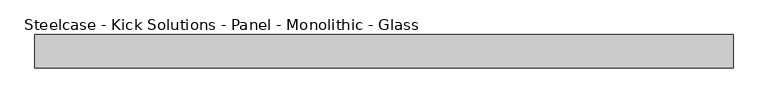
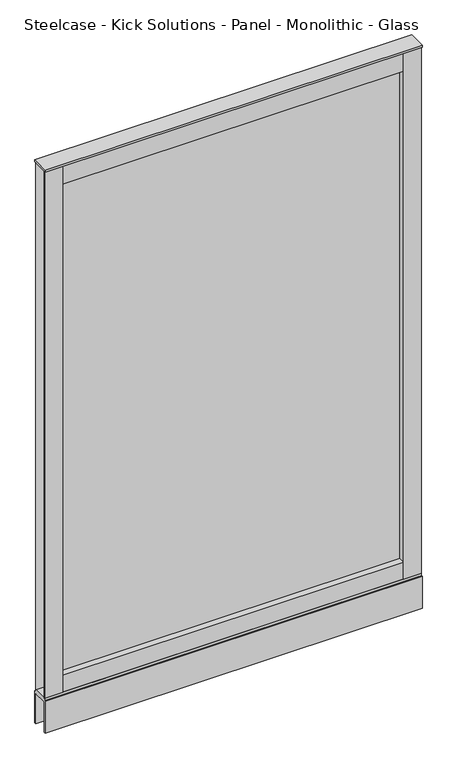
"""IFC4 building model written with IfcOpenShell, lengths in millimetres: furniture geometry, Steelcase - Kick Solutions - Panel - Monolithic - Glass : 66H x 42W."""

import ifcopenshell
import ifcopenshell.guid

model = None  # the IFC model being written
_history = None  # IfcOwnerHistory: only IFC2X3 demands one
_inside = {}  # id of a spatial element -> (the spatial element, [elements in it])
_under = {}  # id of a project, library or spatial element -> (it, [spatial elements below it])
_declared = {}  # id of a project -> (the project, [libraries it declares])
_typed = {}  # id of a type object -> (the type object, [elements of that type])
_made_of = {}  # id of a material, layer set ... -> (it, [elements and type objects made of it])


def new_model(schema):
    """Start an empty IFC model of exactly this schema.

    Asked for "IFC4X3", IfcOpenShell would pick the latest addendum, in which some entities
    have other attributes; the version numbers below select the first issue.
    IFC2X3 requires an IfcOwnerHistory on every rooted entity: one is made here for all.
    """
    global model, _history
    if schema == "IFC4X3":
        model = ifcopenshell.file(schema_version=(4, 3, 0, 0))
    else:
        model = ifcopenshell.file(schema=schema)
    _inside.clear()
    _under.clear()
    _declared.clear()
    _typed.clear()
    _made_of.clear()
    _history = None
    if model.schema == "IFC2X3":
        org = make("IfcOrganization", Name="unknown")
        user = make(
            "IfcPersonAndOrganization",
            ThePerson=make("IfcPerson", FamilyName="unknown"),
            TheOrganization=org,
        )
        app = make(
            "IfcApplication",
            ApplicationDeveloper=org,
            Version="unknown",
            ApplicationFullName="unknown",
            ApplicationIdentifier="unknown",
        )
        _history = make(
            "IfcOwnerHistory",
            OwningUser=user,
            OwningApplication=app,
            ChangeAction="ADDED",
            CreationDate=0,
        )
    return model


def make(cls, **values):
    """One entity of the class cls with the attributes given. An attribute that is None is left unset."""
    return model.create_entity(
        cls, **{name: value for name, value in values.items() if value is not None}
    )


def rooted(cls, **values):
    """An entity with a GlobalId (a new one), such as an element, a storey or a relation."""
    return make(cls, GlobalId=ifcopenshell.guid.new(), OwnerHistory=_history, **values)


def si_unit(unit_type, name, prefix=None):
    """IfcSIUnit, for example si_unit("LENGTHUNIT", "METRE", prefix="MILLI")."""
    return make("IfcSIUnit", UnitType=unit_type, Prefix=prefix, Name=name)


def assignment(units):
    """IfcUnitAssignment: the units of a project."""
    return None if units is None else make("IfcUnitAssignment", Units=units)


def point(xyz):
    """IfcCartesianPoint."""
    return None if xyz is None else make("IfcCartesianPoint", Coordinates=xyz)


def direction(xyz):
    """IfcDirection."""
    return None if xyz is None else make("IfcDirection", DirectionRatios=xyz)


def frame(location, z_axis=None, x_axis=None):
    """IfcAxis2Placement3D, a coordinate frame: its origin and axes. An axis left out is left unset."""
    return make(
        "IfcAxis2Placement3D",
        Location=point(location),
        Axis=direction(z_axis),
        RefDirection=direction(x_axis),
    )


def origin():
    """The frame at (0, 0, 0) with its axes left unset."""
    return frame((0.0, 0.0, 0.0))


def place(relative_to, where):
    """IfcLocalPlacement: puts the frame where relative to a parent placement (None: the world)."""
    return make(
        "IfcLocalPlacement", PlacementRelTo=relative_to, RelativePlacement=where
    )


def context(
    kind, dimensions, precision=None, world=None, true_north=None, identifier=None
):
    """IfcGeometricRepresentationContext, for example the 3D "Model" context."""
    return make(
        "IfcGeometricRepresentationContext",
        ContextIdentifier=identifier,
        ContextType=kind,
        CoordinateSpaceDimension=dimensions,
        Precision=precision,
        WorldCoordinateSystem=world,
        TrueNorth=true_north,
    )


def project(units=None, contexts=None):
    """IfcProject with its units and contexts."""
    return rooted(
        "IfcProject",
        Name="project",
        RepresentationContexts=contexts,
        UnitsInContext=assignment(units),
    )


def spatial(cls, under=None, at=None, **own):
    """A site, building, storey or space (cls), placed at a placement, below another one or the project."""
    s = rooted(cls, ObjectPlacement=at, **own)
    if under is not None:
        _under.setdefault(under.id(), (under, []))[1].append(s)
    return s


def polyline(points):
    """IfcPolyline through the points."""
    return make("IfcPolyline", Points=[point(p) for p in points])


def outline(outer, holes=None, kind="AREA"):
    """IfcArbitraryClosedProfileDef: a profile drawn as a closed curve; with holes, ...WithVoids."""
    if holes is None:
        return make("IfcArbitraryClosedProfileDef", ProfileType=kind, OuterCurve=outer)
    return make(
        "IfcArbitraryProfileDefWithVoids",
        ProfileType=kind,
        OuterCurve=outer,
        InnerCurves=holes,
    )


def extrude(swept, where, along, depth):
    """IfcExtrudedAreaSolid: the profile swept, set in the frame where, extruded along a direction by depth."""
    return make(
        "IfcExtrudedAreaSolid",
        SweptArea=swept,
        Position=where,
        ExtrudedDirection=direction(along),
        Depth=depth,
    )


def shape(context_of_items, identifier, shape_type, items):
    """IfcShapeRepresentation: the items that make up one representation, for example the "Body"."""
    return make(
        "IfcShapeRepresentation",
        ContextOfItems=context_of_items,
        RepresentationIdentifier=identifier,
        RepresentationType=shape_type,
        Items=items,
    )


def source(mapping_origin, context_of_items, identifier, shape_type, items):
    """IfcRepresentationMap: a shape defined once, which mapped items show again and again."""
    return make(
        "IfcRepresentationMap",
        MappingOrigin=mapping_origin,
        MappedRepresentation=shape(context_of_items, identifier, shape_type, items),
    )


def transform(
    local_origin,
    x_axis=None,
    y_axis=None,
    z_axis=None,
    scale=None,
    scale2=None,
    scale3=None,
    uniform=True,
):
    """IfcCartesianTransformationOperator3D, or its non-uniform kind. x_axis, y_axis, z_axis: its Axis1, 2, 3."""
    if uniform:
        return make(
            "IfcCartesianTransformationOperator3D",
            Axis1=direction(x_axis),
            Axis2=direction(y_axis),
            LocalOrigin=point(local_origin),
            Scale=scale,
            Axis3=direction(z_axis),
        )
    return make(
        "IfcCartesianTransformationOperator3DnonUniform",
        Axis1=direction(x_axis),
        Axis2=direction(y_axis),
        LocalOrigin=point(local_origin),
        Scale=scale,
        Axis3=direction(z_axis),
        Scale2=scale2,
        Scale3=scale3,
    )


def mapped(mapping_source, mapping_target):
    """IfcMappedItem: shows the shape of a source again, moved by a transform."""
    return make(
        "IfcMappedItem", MappingSource=mapping_source, MappingTarget=mapping_target
    )


def made_of(thing, what):
    """Note that an element or type object is made of a material, layer set ...; save() writes the relation."""
    if what is not None:
        _made_of.setdefault(what.id(), (what, []))[1].append(thing)
    return thing


def element(
    cls,
    number,
    at=None,
    inside=None,
    cuts=None,
    type_object=None,
    material=None,
    context=None,
    identifier="Body",
    shape_type=None,
    held_by="IfcProductDefinitionShape",
    body=None,
    shapes=None,
    **own,
):
    """One element of the class cls, such as IfcWall. Its Tag is "e" and its number.

    at: its placement. inside: the storey or other place that contains it. cuts: it is an
    opening in that element (IfcRelVoidsElement). A single representation is given by context,
    identifier, shape_type and body (its items); several are given by shapes. held_by: the class
    of the entity that holds the representations. save() writes the other relations.
    """
    e = rooted(cls, Tag="e%d" % number, ObjectPlacement=at, **own)
    if body is not None:
        shapes = [shape(context, identifier, shape_type, body)]
    if shapes is not None:
        e.Representation = make(held_by, Representations=shapes)
    if inside is not None:
        _inside.setdefault(inside.id(), (inside, []))[1].append(e)
    if cuts is not None:
        rooted(
            "IfcRelVoidsElement", RelatingBuildingElement=cuts, RelatedOpeningElement=e
        )
    if type_object is not None:
        _typed.setdefault(type_object.id(), (type_object, []))[1].append(e)
    return made_of(e, material)


def aggregate(whole, parts):
    """IfcRelAggregates: a whole, such as a stair, and the parts it consists of."""
    return rooted("IfcRelAggregates", RelatingObject=whole, RelatedObjects=parts)


def save(model, path):
    """Write the relations noted so far, then the file.

    IfcRelAggregates (storeys below a building ...), IfcRelContainedInSpatialStructure (elements
    in a storey), IfcRelDefinesByType, IfcRelAssociatesMaterial and IfcRelDeclares: one each for
    every whole, place, type object, material and project.
    """
    for whole, parts in _under.values():
        aggregate(whole, parts)
    for where, things in _inside.values():
        rooted(
            "IfcRelContainedInSpatialStructure",
            RelatedElements=things,
            RelatingStructure=where,
        )
    for kind, things in _typed.values():
        rooted("IfcRelDefinesByType", RelatedObjects=things, RelatingType=kind)
    for what, things in _made_of.values():
        rooted("IfcRelAssociatesMaterial", RelatedObjects=things, RelatingMaterial=what)
    for by, libraries in _declared.values():
        rooted("IfcRelDeclares", RelatingContext=by, RelatedDefinitions=libraries)
    model.write(path)


def steelcase_kick_solutions_panel_monolithic_glass_9ab94c73(model_context):
    return source(origin(), model_context, "Body", "SweptSolid", [
        extrude(outline(polyline([(1016.0006661, -5.08), (1016.0006661, -45.7200015), (50.8006646, -45.7200015), (50.8006646, -5.08), (1016.0006661, -5.08)])), frame((0.0, 0.0, 101.7169049), z_axis=(0.0, 0.0, 1.0), x_axis=(1.0, 0.0, 0.0)), (0.0, 0.0, 1.0), 50.6830951),
        extrude(outline(polyline([(1016.0006661, -5.08), (1016.0006661, -45.7200015), (50.8006646, -45.7200015), (50.8006646, -5.08), (1016.0006661, -5.08)])), frame((0.0, 0.0, 1619.25), z_axis=(0.0, 0.0, 1.0), x_axis=(1.0, 0.0, 0.0)), (0.0, 0.0, 1.0), 57.15),
        extrude(outline(polyline([(50.8006646, -3.1743148), (50.8006646, -47.6243142), (0.0, -47.6243142), (0.0, -45.7200015), (47.7526646, -45.7200015), (47.7526646, -5.08), (0.0, -5.08), (0.0, -3.1743148), (50.8006646, -3.1743148)])), frame((0.0, 0.0, 101.7169049), z_axis=(0.0, 0.0, 1.0), x_axis=(1.0, 0.0, 0.0)), (0.0, 0.0, 1.0), 1574.6830951),
        extrude(outline(polyline([(1016.0006661, -3.1743148), (1066.8, -3.1743148), (1066.8, -5.08), (1019.0486661, -5.08), (1019.0486661, -45.7200015), (1066.8, -45.7200015), (1066.8, -47.6243142), (1016.0006661, -47.6243142), (1016.0006661, -3.1743148)])), frame((0.0, 0.0, 101.7169049), z_axis=(0.0, 0.0, 1.0), x_axis=(1.0, 0.0, 0.0)), (0.0, 0.0, 1.0), 1574.6830951),
        extrude(outline(polyline([(1016.0006661, -28.422537), (50.8006646, -28.422537), (50.8006646, -25.4), (1016.0006661, -25.4), (1016.0006661, -28.422537)])), frame((0.0, 0.0, 152.4), z_axis=(0.0, 0.0, 1.0), x_axis=(1.0, 0.0, 0.0)), (0.0, 0.0, 1.0), 1466.85),
        extrude(outline(polyline([(1066.8, 0.0), (1066.8, -50.8000015), (0.0, -50.8000015), (0.0, 0.0), (1066.8, 0.0)])), frame((0.0, 0.0, 1676.4), z_axis=(0.0, 0.0, 1.0), x_axis=(1.0, 0.0, 0.0)), (0.0, 0.0, 1.0), 6.35),
        extrude(outline(polyline([(0.0, 0.0), (-5.08, 0.0), (-5.08, 90.2869018), (-45.7200015, 90.2869018), (-45.7200015, 0.0), (-50.8000015, 0.0), (-50.8000015, 95.3669018), (-47.6243142, 95.3669018), (-47.6243142, 101.7169049), (-3.1743148, 101.7169049), (-3.1743148, 95.3669018), (0.0, 95.3669018), (0.0, 0.0)])), frame((0.0, 0.0, 0.0), z_axis=(1.0, 0.0, 0.0), x_axis=(0.0, 1.0, 0.0)), (0.0, 0.0, 1.0), 1066.8),
    ])


if __name__ == "__main__":
    model = new_model("IFC4")
    model_context = context("Model", 3, world=origin())
    ifc_project = project(units=[si_unit("LENGTHUNIT", "METRE", prefix="MILLI")], contexts=[model_context])
    site = spatial("IfcSite", under=ifc_project)
    building = spatial("IfcBuilding", under=site)
    placement = place(None, origin())
    steelcase_kick_solutions_panel_monolithic_glass_shape = steelcase_kick_solutions_panel_monolithic_glass_9ab94c73(model_context)
    element("IfcFurniture", 1, ObjectType="Steelcase - Kick Solutions - Panel - Monolithic - Glass : 66H x 42W", at=placement, inside=building, context=model_context, shape_type="MappedRepresentation", body=[
        mapped(steelcase_kick_solutions_panel_monolithic_glass_shape, transform((0.0, 0.0, 0.0), x_axis=(1.0, 0.0, 0.0), y_axis=(0.0, 1.0, 0.0), z_axis=(0.0, 0.0, 1.0))),
    ])
    save(model, "model.ifc")
